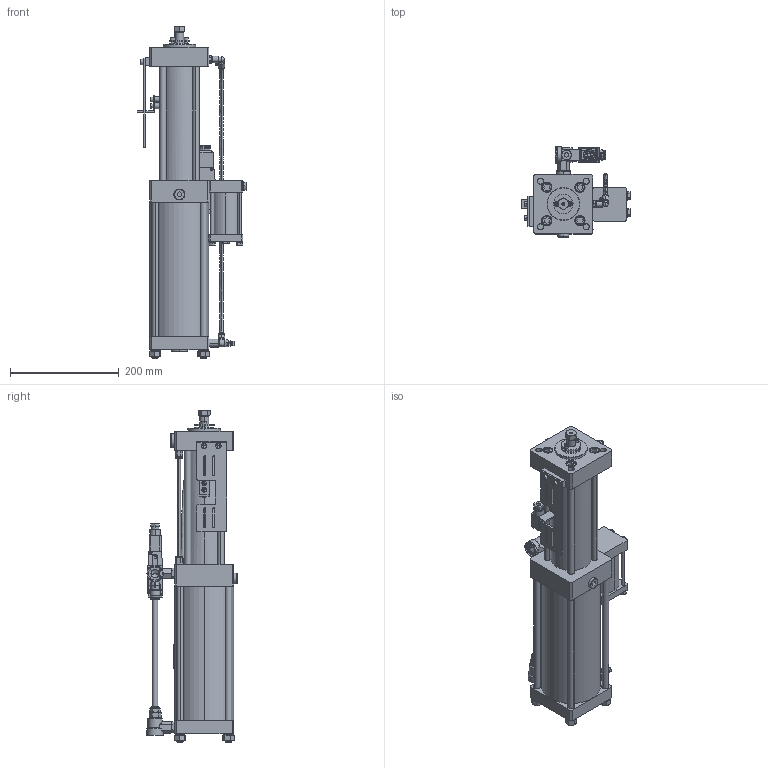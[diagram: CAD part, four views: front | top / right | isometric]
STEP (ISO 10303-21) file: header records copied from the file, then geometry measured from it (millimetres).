
FILE_DESCRIPTION (( 'STEP AP203' ), '1' );
FILE_NAME ('PCT5 10036 VC15.STEP', '2017-12-05T08:43:23', ( '' ), ( '' ), 'SwSTEP 2.0', 'SolidWorks 2015', '' );
FILE_SCHEMA (( 'CONFIG_CONTROL_DESIGN' ));
Length unit declared in the file: millimetre
Products named in the file (39): INT FEC; 18Janatics-Male elbow_elbow_DIA 6; Janatics-WN015151WN015151_WN015151; QEV; INT TR; 18Janatics-Male elbow_Collet cap_DIA 6; DC VALVE-Janatics-DEFAULT_DS255SR61; (normal) internal_is_IS 3075(Part2) NI- 26; spring lock washer 6735_is_IS 6735- 6; PCT CYL_PCT5 10036 VC15; 1 8 BSP FCV-Janatics-GR2_GR1105006; Janatics-Male elbow_elbow_DIA 10; 1 4 BSP QEV; hexagon nut_is_IS 1363-2 - M6-N; socket head cap screw_is_IS 2269 - M5 x 8-N; Part3^PCT; Janatics-Male elbow_Collet cap_DIA 10; Janatics-Male connector_housing MC_WP2110650; 3 8 BSP PLUG; socket head cap screw_is_IS 2269 - M6 x 10-N; Part4^PCT; Janatics-Male elbow_Male threaded nipple_Dia 10 x 14; Janatics-Male connector_Collet cap_DIA 6; SILENCER; INT REC; spring lock washer 6735_is_IS 6735- 12; Janatics-Male elbow_Male elbow; 1 8 BSP PU 6_Janatics-Male connector_Male connector; CONTAINER PRA-03; GASKET; hexagon nut style 1_is_IS 1364-3 - M12-W-N; Part1^PCT; Part2^PCT; plain washer (type a)_is_IS 2016 A- 9; INT TUBE; PCT5 10036 VC15; 18Janatics-Male elbow_Male threaded nipple_Dia 6 x 18; Janatics-WN015152WN015152_WN015152; hexagon fit bolt_is_IS 3640 - M8 x 25 x 14.5-N
Assembly tree (69 placements, depth 3):
  Part3^PCT
  PCT5 10036 VC15
    PCT CYL_PCT5 10036 VC15
    socket head cap screw_is_IS 2269 - M5 x 8-N  x4
    socket head cap screw_is_IS 2269 - M6 x 10-N  x2
    CONTAINER PRA-03
      INT REC
      GASKET  x2
      INT TUBE
      INT FEC
      INT TR  x4
      spring lock washer 6735_is_IS 6735- 6  x4
      hexagon nut_is_IS 1363-2 - M6-N  x4
      3 8 BSP PLUG
      SILENCER
    plain washer (type a)_is_IS 2016 A- 9  x2
    hexagon fit bolt_is_IS 3640 - M8 x 25 x 14.5-N  x2
    1 4 BSP QEV
      QEV
      (normal) internal_is_IS 3075(Part2) NI- 26
    QEV
    1 8 BSP PU 6_Janatics-Male connector_Male connector  x2
      Janatics-Male connector_housing MC_WP2110650
      Janatics-Male connector_Collet cap_DIA 6
    Part2^PCT
    Janatics-WN015152WN015152_WN015152  x2
    Janatics-WN015151WN015151_WN015151
    DC VALVE-Janatics-DEFAULT_DS255SR61
    (normal) internal_is_IS 3075(Part2) NI- 26
    Janatics-Male elbow_Male elbow
      Janatics-Male elbow_elbow_DIA 10
      Janatics-Male elbow_Collet cap_DIA 10
      Janatics-Male elbow_Male threaded nipple_Dia 10 x 14
    Janatics-Male elbow_Collet cap_DIA 10  x2
    Janatics-Male elbow_Male threaded nipple_Dia 10 x 14  x2
    Part1^PCT
    SILENCER  x2
    18Janatics-Male elbow_Male threaded nipple_Dia 6 x 18
    18Janatics-Male elbow_elbow_DIA 6
    18Janatics-Male elbow_Collet cap_DIA 6
    1 8 BSP FCV-Janatics-GR2_GR1105006
    Part4^PCT
    spring lock washer 6735_is_IS 6735- 12  x4
    hexagon nut style 1_is_IS 1364-3 - M12-W-N  x4
Bounding box: 200.6 x 166 x 611 mm (x, y, z)
Volume: 4971205.2 mm3; surface area: 616408.6 mm2
Topology: 87 solids, 88 shells, 4349 faces, 10948 edges, 6919 vertices
Faces by surface type: plane 1938, cylinder 1348, cone 726, torus 177, bspline 145, sphere 15
Entity records: 107594 total; most frequent: CARTESIAN_POINT 25833, ORIENTED_EDGE 16104, DIRECTION 15987, EDGE_CURVE 8052, AXIS2_PLACEMENT_3D 5844, VERTEX_POINT 5148, VECTOR 4299, LINE 4299
